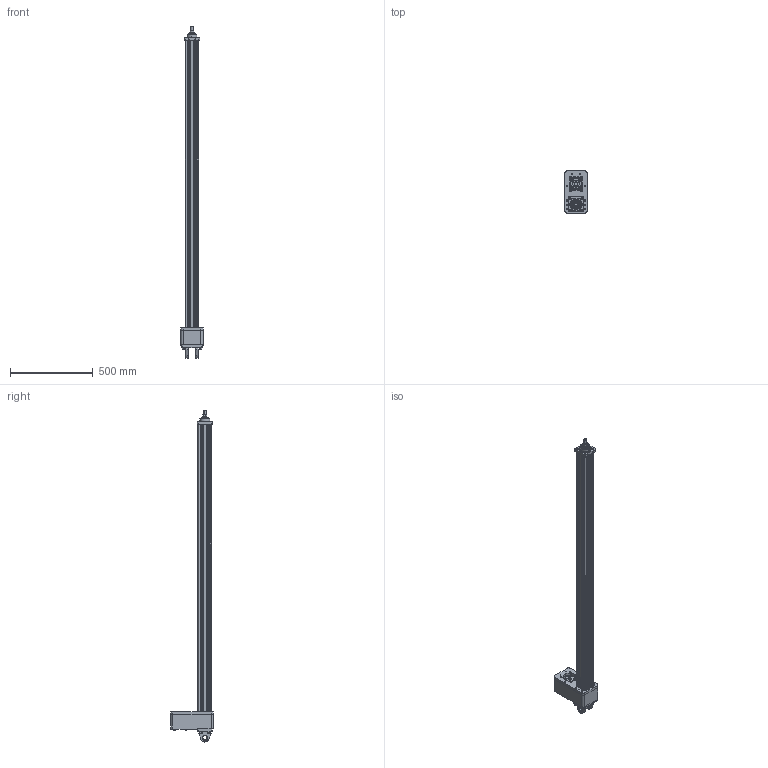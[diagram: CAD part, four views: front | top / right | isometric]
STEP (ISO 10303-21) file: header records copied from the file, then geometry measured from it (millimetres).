
FILE_DESCRIPTION (( 'STEP AP203' ), '1' );
FILE_NAME ('FT35-6005-CPA-G90.STEP', '2011-03-28T20:41:04', ( ' ' ), ( '' ), 'SwSTEP 2.0', 'SolidWorks 2011', '' );
FILE_SCHEMA (( 'CONFIG_CONTROL_DESIGN' ));
Length unit declared in the file: inch
Products named in the file (51): FT35-6005-CPA-G90; 21810; 10260; 01120; 12248; 11249; 11796; 11797; 45465; 15202; 10469; 12980_1:1 Ratio 28 Tooth Pulleys 5.04 C to C; Bushing Screw And Washer QT Style; Bushing QT Style_ø19mm Bore PN 12459; 11490; 34923_91251A551; 10524; Bushing QT Style_ø22mm Bore PN 13979; 42329; 11836; 10550; 23030; 10468; 14956_14956; 11111; 11115; 10496; 11109; 10501; 28748C; 28747; 28746_1 blank; 11638N; 01088; 11789; 16891_16891; 15983_15983; 16890; main rod - male m16x1.5 - 60 inch stroke; 11546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
Assembly tree (91 placements, depth 3):
  FT35-6005-CPA-G90
    11249  x4
    Bushing Screw And Washer QT Style  x2
    10501  x4
    11638N
    11112  x10
    12248  x4
    28748C
      28748C
      28746_1 blank
      28747
    21810  x4
    11796  x4
    34923_91251A551
    23030  x4
    01120  x4
    10469  x2
    11836  x2
    case - 60 inch stroke - ft35
    16890  x2
    14452
    11109
    11797
    11789
    16891_16891  x2
    11490
    10468
    10550  x4
    11111
    main rod - male m16x1.5 - 60 inch stroke
      19617
      11546
      14151  x2
      14232
    14449
    11790
    11634S
    11115
    10260  x2
    45465
    42329
    12980_1:1 Ratio 28 Tooth Pulleys 5.04 C to C
    Bushing QT Style_ø19mm Bore PN 12459
    19022
    Bushing QT Style_ø22mm Bore PN 13979
    01088
    10524
    14956_14956
    10496
    15983_15983  x2
    15202
Bounding box: 133.38 x 257.18 x 2009.9 mm (x, y, z)
Volume: 7530210.2 mm3; surface area: 2558651.7 mm2
Topology: 91 solids, 91 shells, 3084 faces, 7711 edges, 4807 vertices
Faces by surface type: cylinder 1188, plane 968, cone 461, torus 373, bspline 94
Entity records: 81819 total; most frequent: CARTESIAN_POINT 18932, DIRECTION 12447, ORIENTED_EDGE 11410, EDGE_CURVE 5705, AXIS2_PLACEMENT_3D 4859, VERTEX_POINT 3631, LINE 2729, VECTOR 2729
